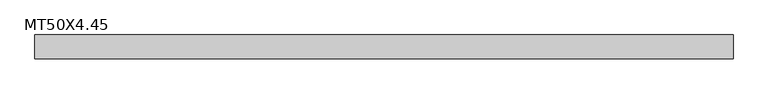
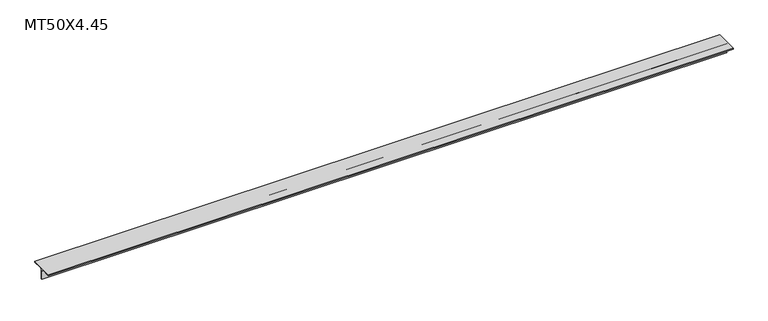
"""IFC4 building model written with IfcOpenShell, lengths in millimetres: beam geometry, M_MT-Structural Tee : MT50X4.45."""

import ifcopenshell
import ifcopenshell.guid

model = None  # the IFC model being written
_history = None  # IfcOwnerHistory: only IFC2X3 demands one
_inside = {}  # id of a spatial element -> (the spatial element, [elements in it])
_under = {}  # id of a project, library or spatial element -> (it, [spatial elements below it])
_declared = {}  # id of a project -> (the project, [libraries it declares])
_typed = {}  # id of a type object -> (the type object, [elements of that type])
_made_of = {}  # id of a material, layer set ... -> (it, [elements and type objects made of it])


def new_model(schema):
    """Start an empty IFC model of exactly this schema.

    Asked for "IFC4X3", IfcOpenShell would pick the latest addendum, in which some entities
    have other attributes; the version numbers below select the first issue.
    IFC2X3 requires an IfcOwnerHistory on every rooted entity: one is made here for all.
    """
    global model, _history
    if schema == "IFC4X3":
        model = ifcopenshell.file(schema_version=(4, 3, 0, 0))
    else:
        model = ifcopenshell.file(schema=schema)
    _inside.clear()
    _under.clear()
    _declared.clear()
    _typed.clear()
    _made_of.clear()
    _history = None
    if model.schema == "IFC2X3":
        org = make("IfcOrganization", Name="unknown")
        user = make(
            "IfcPersonAndOrganization",
            ThePerson=make("IfcPerson", FamilyName="unknown"),
            TheOrganization=org,
        )
        app = make(
            "IfcApplication",
            ApplicationDeveloper=org,
            Version="unknown",
            ApplicationFullName="unknown",
            ApplicationIdentifier="unknown",
        )
        _history = make(
            "IfcOwnerHistory",
            OwningUser=user,
            OwningApplication=app,
            ChangeAction="ADDED",
            CreationDate=0,
        )
    return model


def make(cls, **values):
    """One entity of the class cls with the attributes given. An attribute that is None is left unset."""
    return model.create_entity(
        cls, **{name: value for name, value in values.items() if value is not None}
    )


def rooted(cls, **values):
    """An entity with a GlobalId (a new one), such as an element, a storey or a relation."""
    return make(cls, GlobalId=ifcopenshell.guid.new(), OwnerHistory=_history, **values)


def si_unit(unit_type, name, prefix=None):
    """IfcSIUnit, for example si_unit("LENGTHUNIT", "METRE", prefix="MILLI")."""
    return make("IfcSIUnit", UnitType=unit_type, Prefix=prefix, Name=name)


def assignment(units):
    """IfcUnitAssignment: the units of a project."""
    return None if units is None else make("IfcUnitAssignment", Units=units)


def point(xyz):
    """IfcCartesianPoint."""
    return None if xyz is None else make("IfcCartesianPoint", Coordinates=xyz)


def direction(xyz):
    """IfcDirection."""
    return None if xyz is None else make("IfcDirection", DirectionRatios=xyz)


def frame(location, z_axis=None, x_axis=None):
    """IfcAxis2Placement3D, a coordinate frame: its origin and axes. An axis left out is left unset."""
    return make(
        "IfcAxis2Placement3D",
        Location=point(location),
        Axis=direction(z_axis),
        RefDirection=direction(x_axis),
    )


def frame_2d(location, x_axis=None):
    """IfcAxis2Placement2D, a coordinate frame in the plane: its origin and x axis."""
    return make(
        "IfcAxis2Placement2D", Location=point(location), RefDirection=direction(x_axis)
    )


def origin():
    """The frame at (0, 0, 0) with its axes left unset."""
    return frame((0.0, 0.0, 0.0))


def place(relative_to, where):
    """IfcLocalPlacement: puts the frame where relative to a parent placement (None: the world)."""
    return make(
        "IfcLocalPlacement", PlacementRelTo=relative_to, RelativePlacement=where
    )


def context(
    kind, dimensions, precision=None, world=None, true_north=None, identifier=None
):
    """IfcGeometricRepresentationContext, for example the 3D "Model" context."""
    return make(
        "IfcGeometricRepresentationContext",
        ContextIdentifier=identifier,
        ContextType=kind,
        CoordinateSpaceDimension=dimensions,
        Precision=precision,
        WorldCoordinateSystem=world,
        TrueNorth=true_north,
    )


def project(units=None, contexts=None):
    """IfcProject with its units and contexts."""
    return rooted(
        "IfcProject",
        Name="project",
        RepresentationContexts=contexts,
        UnitsInContext=assignment(units),
    )


def spatial(cls, under=None, at=None, **own):
    """A site, building, storey or space (cls), placed at a placement, below another one or the project."""
    s = rooted(cls, ObjectPlacement=at, **own)
    if under is not None:
        _under.setdefault(under.id(), (under, []))[1].append(s)
    return s


def polyline(points):
    """IfcPolyline through the points."""
    return make("IfcPolyline", Points=[point(p) for p in points])


def circle_curve(where, radius):
    """IfcCircle in the frame where."""
    return make("IfcCircle", Position=where, Radius=radius)


def trimmed(basis, trim1, trim2, sense, master):
    """IfcTrimmedCurve: the piece of a basis curve between two trims."""
    return make(
        "IfcTrimmedCurve",
        BasisCurve=basis,
        Trim1=trim1,
        Trim2=trim2,
        SenseAgreement=sense,
        MasterRepresentation=master,
    )


def segment(curve, same_sense, transition):
    """IfcCompositeCurveSegment."""
    return make(
        "IfcCompositeCurveSegment",
        Transition=transition,
        SameSense=same_sense,
        ParentCurve=curve,
    )


def composite_curve(segments, self_intersect=None):
    """IfcCompositeCurve: segments joined end to end."""
    return make("IfcCompositeCurve", Segments=segments, SelfIntersect=self_intersect)


def outline(outer, holes=None, kind="AREA"):
    """IfcArbitraryClosedProfileDef: a profile drawn as a closed curve; with holes, ...WithVoids."""
    if holes is None:
        return make("IfcArbitraryClosedProfileDef", ProfileType=kind, OuterCurve=outer)
    return make(
        "IfcArbitraryProfileDefWithVoids",
        ProfileType=kind,
        OuterCurve=outer,
        InnerCurves=holes,
    )


def extrude(swept, where, along, depth):
    """IfcExtrudedAreaSolid: the profile swept, set in the frame where, extruded along a direction by depth."""
    return make(
        "IfcExtrudedAreaSolid",
        SweptArea=swept,
        Position=where,
        ExtrudedDirection=direction(along),
        Depth=depth,
    )


def shape(context_of_items, identifier, shape_type, items):
    """IfcShapeRepresentation: the items that make up one representation, for example the "Body"."""
    return make(
        "IfcShapeRepresentation",
        ContextOfItems=context_of_items,
        RepresentationIdentifier=identifier,
        RepresentationType=shape_type,
        Items=items,
    )


def source(mapping_origin, context_of_items, identifier, shape_type, items):
    """IfcRepresentationMap: a shape defined once, which mapped items show again and again."""
    return make(
        "IfcRepresentationMap",
        MappingOrigin=mapping_origin,
        MappedRepresentation=shape(context_of_items, identifier, shape_type, items),
    )


def transform(
    local_origin,
    x_axis=None,
    y_axis=None,
    z_axis=None,
    scale=None,
    scale2=None,
    scale3=None,
    uniform=True,
):
    """IfcCartesianTransformationOperator3D, or its non-uniform kind. x_axis, y_axis, z_axis: its Axis1, 2, 3."""
    if uniform:
        return make(
            "IfcCartesianTransformationOperator3D",
            Axis1=direction(x_axis),
            Axis2=direction(y_axis),
            LocalOrigin=point(local_origin),
            Scale=scale,
            Axis3=direction(z_axis),
        )
    return make(
        "IfcCartesianTransformationOperator3DnonUniform",
        Axis1=direction(x_axis),
        Axis2=direction(y_axis),
        LocalOrigin=point(local_origin),
        Scale=scale,
        Axis3=direction(z_axis),
        Scale2=scale2,
        Scale3=scale3,
    )


def mapped(mapping_source, mapping_target):
    """IfcMappedItem: shows the shape of a source again, moved by a transform."""
    return make(
        "IfcMappedItem", MappingSource=mapping_source, MappingTarget=mapping_target
    )


def made_of(thing, what):
    """Note that an element or type object is made of a material, layer set ...; save() writes the relation."""
    if what is not None:
        _made_of.setdefault(what.id(), (what, []))[1].append(thing)
    return thing


def element(
    cls,
    number,
    at=None,
    inside=None,
    cuts=None,
    type_object=None,
    material=None,
    context=None,
    identifier="Body",
    shape_type=None,
    held_by="IfcProductDefinitionShape",
    body=None,
    shapes=None,
    **own,
):
    """One element of the class cls, such as IfcWall. Its Tag is "e" and its number.

    at: its placement. inside: the storey or other place that contains it. cuts: it is an
    opening in that element (IfcRelVoidsElement). A single representation is given by context,
    identifier, shape_type and body (its items); several are given by shapes. held_by: the class
    of the entity that holds the representations. save() writes the other relations.
    """
    e = rooted(cls, Tag="e%d" % number, ObjectPlacement=at, **own)
    if body is not None:
        shapes = [shape(context, identifier, shape_type, body)]
    if shapes is not None:
        e.Representation = make(held_by, Representations=shapes)
    if inside is not None:
        _inside.setdefault(inside.id(), (inside, []))[1].append(e)
    if cuts is not None:
        rooted(
            "IfcRelVoidsElement", RelatingBuildingElement=cuts, RelatedOpeningElement=e
        )
    if type_object is not None:
        _typed.setdefault(type_object.id(), (type_object, []))[1].append(e)
    return made_of(e, material)


def aggregate(whole, parts):
    """IfcRelAggregates: a whole, such as a stair, and the parts it consists of."""
    return rooted("IfcRelAggregates", RelatingObject=whole, RelatedObjects=parts)


def save(model, path):
    """Write the relations noted so far, then the file.

    IfcRelAggregates (storeys below a building ...), IfcRelContainedInSpatialStructure (elements
    in a storey), IfcRelDefinesByType, IfcRelAssociatesMaterial and IfcRelDeclares: one each for
    every whole, place, type object, material and project.
    """
    for whole, parts in _under.values():
        aggregate(whole, parts)
    for where, things in _inside.values():
        rooted(
            "IfcRelContainedInSpatialStructure",
            RelatedElements=things,
            RelatingStructure=where,
        )
    for kind, things in _typed.values():
        rooted("IfcRelDefinesByType", RelatedObjects=things, RelatingType=kind)
    for what, things in _made_of.values():
        rooted("IfcRelAssociatesMaterial", RelatedObjects=things, RelatingMaterial=what)
    for by, libraries in _declared.values():
        rooted("IfcRelDeclares", RelatingContext=by, RelatedDefinitions=libraries)
    model.write(path)


def mt50x4_45_f827323b(model_context):
    return source(origin(), model_context, "Body", "SweptSolid", [
        extrude(outline(composite_curve([segment(polyline([(48.25, 24.15), (48.25, 20.05), (11.55, 20.05)]), True, "CONTINUOUS"), segment(trimmed(circle_curve(frame_2d((11.55, 10.15)), 9.9), [point((11.55, 20.05))], [point((1.65, 10.15))], True, "CARTESIAN"), True, "CONTINUOUS"), segment(polyline([(1.65, 10.15), (1.65, -24.15), (-1.65, -24.15), (-1.65, 10.15)]), True, "CONTINUOUS"), segment(trimmed(circle_curve(frame_2d((-11.55, 10.15)), 9.9), [point((-1.65, 10.15))], [point((-11.55, 20.05))], True, "CARTESIAN"), True, "CONTINUOUS"), segment(polyline([(-11.55, 20.05), (-48.25, 20.05), (-48.25, 24.15), (48.25, 24.15)]), True, "CONTINUOUS")], self_intersect=False)), frame((-1410.7880678, 0.0, 0.0), z_axis=(1.0, 0.0, 0.0), x_axis=(0.0, 1.0, 0.0)), (0.0, 0.0, 1.0), 2821.5761357),
    ])


if __name__ == "__main__":
    model = new_model("IFC4")
    model_context = context("Model", 3, world=origin())
    ifc_project = project(units=[si_unit("LENGTHUNIT", "METRE", prefix="MILLI")], contexts=[model_context])
    site = spatial("IfcSite", under=ifc_project)
    building = spatial("IfcBuilding", under=site)
    placement = place(None, origin())
    mt50x4_45_shape = mt50x4_45_f827323b(model_context)
    element("IfcBeam", 1, ObjectType="M_MT-Structural Tee : MT50X4.45", at=placement, inside=building, context=model_context, shape_type="MappedRepresentation", body=[
        mapped(mt50x4_45_shape, transform((0.0, 0.0, 0.0), x_axis=(1.0, 0.0, 0.0), y_axis=(0.0, 1.0, 0.0), z_axis=(0.0, 0.0, 1.0))),
    ])
    save(model, "model.ifc")
